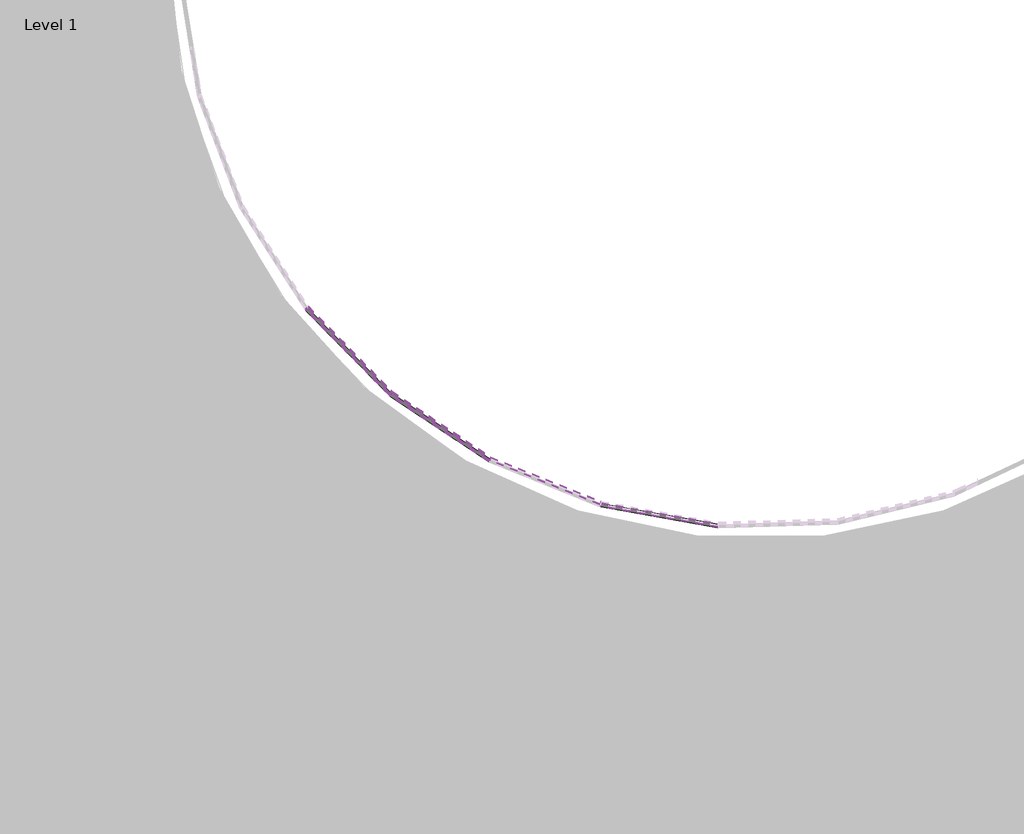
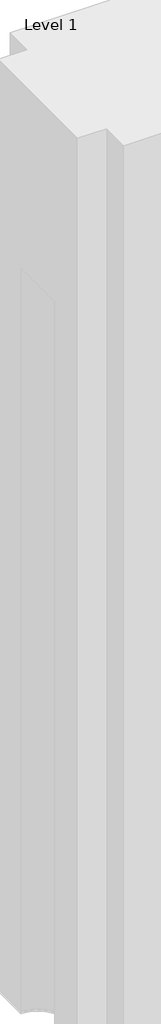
# One storey, part 17 of 20: 124 plates.
"""IFC4 building model written with IfcOpenShell, lengths in millimetres."""

from ifc_helpers import new_model, si_unit, origin, place, context, project, spatial, transform, mapped, element, save
from components import system_panel_glazed_d77d1ebf

model = new_model("IFC4")

# Units and contexts
model_context = context("Model", 3, world=origin())
ifc_project = project(units=[si_unit("LENGTHUNIT", "METRE", prefix="MILLI")], contexts=[model_context])

# Site, building, storey
site = spatial("IfcSite", under=ifc_project)
building = spatial("IfcBuilding", under=site)
storey = spatial("IfcBuildingStorey", under=building, Name="Level 1", Elevation=0.0)

# Plates
placement = place(None, origin())
system_panel_glazed_shape = system_panel_glazed_d77d1ebf(model_context)
element("IfcPlate", 1, ObjectType="System Panel : Glazed", at=placement, inside=storey, context=model_context, shape_type="MappedRepresentation", body=[
    mapped(system_panel_glazed_shape, transform((2743.6779183, 4695.2639957, 0.0), x_axis=(0.9845824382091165, -0.17492118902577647, 0.0), y_axis=(0.17492118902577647, 0.9845824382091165, 0.0), z_axis=(0.0, 0.0, 1.0))),
])
element("IfcPlate", 2, ObjectType="System Panel : Glazed", at=placement, inside=storey, context=model_context, shape_type="MappedRepresentation", body=[
    mapped(system_panel_glazed_shape, transform((2743.6779183, 4695.2639957, 3048.0), x_axis=(0.9845824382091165, -0.17492118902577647, 0.0), y_axis=(0.17492118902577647, 0.9845824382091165, 0.0), z_axis=(0.0, 0.0, 1.0))),
])
element("IfcPlate", 3, ObjectType="System Panel : Glazed", at=placement, inside=storey, context=model_context, shape_type="MappedRepresentation", body=[
    mapped(system_panel_glazed_shape, transform((2743.6779183, 4695.2639957, 6096.0), x_axis=(0.9845824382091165, -0.17492118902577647, 0.0), y_axis=(0.17492118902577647, 0.9845824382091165, 0.0), z_axis=(0.0, 0.0, 1.0))),
])
element("IfcPlate", 4, ObjectType="System Panel : Glazed", at=placement, inside=storey, context=model_context, shape_type="MappedRepresentation", body=[
    mapped(system_panel_glazed_shape, transform((2743.6779183, 4695.2639957, 9144.0), x_axis=(0.9845824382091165, -0.17492118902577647, 0.0), y_axis=(0.17492118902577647, 0.9845824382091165, 0.0), z_axis=(0.0, 0.0, 1.0))),
])
element("IfcPlate", 5, ObjectType="System Panel : Glazed", at=placement, inside=storey, context=model_context, shape_type="MappedRepresentation", body=[
    mapped(system_panel_glazed_shape, transform((2743.6779183, 4695.2639957, 12192.0), x_axis=(0.9845824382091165, -0.17492118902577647, 0.0), y_axis=(0.17492118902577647, 0.9845824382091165, 0.0), z_axis=(0.0, 0.0, 1.0))),
])
element("IfcPlate", 6, ObjectType="System Panel : Glazed", at=placement, inside=storey, context=model_context, shape_type="MappedRepresentation", body=[
    mapped(system_panel_glazed_shape, transform((2743.6779183, 4695.2639957, 15240.0), x_axis=(0.9845824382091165, -0.17492118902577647, 0.0), y_axis=(0.17492118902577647, 0.9845824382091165, 0.0), z_axis=(0.0, 0.0, 1.0))),
])
element("IfcPlate", 7, ObjectType="System Panel : Glazed", at=placement, inside=storey, context=model_context, shape_type="MappedRepresentation", body=[
    mapped(system_panel_glazed_shape, transform((2743.6779183, 4695.2639957, 18288.0), x_axis=(0.9845824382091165, -0.17492118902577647, 0.0), y_axis=(0.17492118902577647, 0.9845824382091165, 0.0), z_axis=(0.0, 0.0, 1.0))),
])
element("IfcPlate", 8, ObjectType="System Panel : Glazed", at=placement, inside=storey, context=model_context, shape_type="MappedRepresentation", body=[
    mapped(system_panel_glazed_shape, transform((2743.6779183, 4695.2639957, 21336.0), x_axis=(0.9845824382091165, -0.17492118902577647, 0.0), y_axis=(0.17492118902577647, 0.9845824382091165, 0.0), z_axis=(0.0, 0.0, 1.0))),
])
element("IfcPlate", 9, ObjectType="System Panel : Glazed", at=placement, inside=storey, context=model_context, shape_type="MappedRepresentation", body=[
    mapped(system_panel_glazed_shape, transform((2743.6779183, 4695.2639957, 24384.0), x_axis=(0.9845824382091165, -0.17492118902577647, 0.0), y_axis=(0.17492118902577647, 0.9845824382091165, 0.0), z_axis=(0.0, 0.0, 1.0))),
])
element("IfcPlate", 10, ObjectType="System Panel : Glazed", at=placement, inside=storey, context=model_context, shape_type="MappedRepresentation", body=[
    mapped(system_panel_glazed_shape, transform((2743.6779183, 4695.2639957, 27432.0), x_axis=(0.9845824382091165, -0.17492118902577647, 0.0), y_axis=(0.17492118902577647, 0.9845824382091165, 0.0), z_axis=(0.0, 0.0, 1.0))),
])
element("IfcPlate", 11, ObjectType="System Panel : Glazed", at=placement, inside=storey, context=model_context, shape_type="MappedRepresentation", body=[
    mapped(system_panel_glazed_shape, transform((2743.6779183, 4695.2639957, 30480.0), x_axis=(0.9845824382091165, -0.17492118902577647, 0.0), y_axis=(0.17492118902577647, 0.9845824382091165, 0.0), z_axis=(0.0, 0.0, 1.0))),
])
element("IfcPlate", 12, ObjectType="System Panel : Glazed", at=placement, inside=storey, context=model_context, shape_type="MappedRepresentation", body=[
    mapped(system_panel_glazed_shape, transform((2743.6779183, 4695.2639957, 33528.0), x_axis=(0.9845824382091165, -0.17492118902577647, 0.0), y_axis=(0.17492118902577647, 0.9845824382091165, 0.0), z_axis=(0.0, 0.0, 1.0))),
])
element("IfcPlate", 13, ObjectType="System Panel : Glazed", at=placement, inside=storey, context=model_context, shape_type="MappedRepresentation", body=[
    mapped(system_panel_glazed_shape, transform((2743.6779183, 4695.2639957, 36576.0), x_axis=(0.9845824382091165, -0.17492118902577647, 0.0), y_axis=(0.17492118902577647, 0.9845824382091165, 0.0), z_axis=(0.0, 0.0, 1.0))),
])
element("IfcPlate", 14, ObjectType="System Panel : Glazed", at=placement, inside=storey, context=model_context, shape_type="MappedRepresentation", body=[
    mapped(system_panel_glazed_shape, transform((2743.6779183, 4695.2639957, 39624.0), x_axis=(0.9845824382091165, -0.17492118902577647, 0.0), y_axis=(0.17492118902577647, 0.9845824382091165, 0.0), z_axis=(0.0, 0.0, 1.0))),
])
element("IfcPlate", 15, ObjectType="System Panel : Glazed", at=placement, inside=storey, context=model_context, shape_type="MappedRepresentation", body=[
    mapped(system_panel_glazed_shape, transform((2743.6779183, 4695.2639957, 42672.0), x_axis=(0.9845824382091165, -0.17492118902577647, 0.0), y_axis=(0.17492118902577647, 0.9845824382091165, 0.0), z_axis=(0.0, 0.0, 1.0))),
])
element("IfcPlate", 16, ObjectType="System Panel : Glazed", at=placement, inside=storey, context=model_context, shape_type="MappedRepresentation", body=[
    mapped(system_panel_glazed_shape, transform((2743.6779183, 4695.2639957, 45720.0), x_axis=(0.9845824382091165, -0.17492118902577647, 0.0), y_axis=(0.17492118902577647, 0.9845824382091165, 0.0), z_axis=(0.0, 0.0, 1.0))),
])
element("IfcPlate", 17, ObjectType="System Panel : Glazed", at=placement, inside=storey, context=model_context, shape_type="MappedRepresentation", body=[
    mapped(system_panel_glazed_shape, transform((2743.6779183, 4695.2639957, 48768.0), x_axis=(0.9845824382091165, -0.17492118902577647, 0.0), y_axis=(0.17492118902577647, 0.9845824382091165, 0.0), z_axis=(0.0, 0.0, 1.0))),
])
element("IfcPlate", 18, ObjectType="System Panel : Glazed", at=placement, inside=storey, context=model_context, shape_type="MappedRepresentation", body=[
    mapped(system_panel_glazed_shape, transform((2743.6779183, 4695.2639957, 51816.0), x_axis=(0.9845824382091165, -0.17492118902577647, 0.0), y_axis=(0.17492118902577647, 0.9845824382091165, 0.0), z_axis=(0.0, 0.0, 1.0))),
])
element("IfcPlate", 19, ObjectType="System Panel : Glazed", at=placement, inside=storey, context=model_context, shape_type="MappedRepresentation", body=[
    mapped(system_panel_glazed_shape, transform((2743.6779183, 4695.2639957, 54864.0), x_axis=(0.9845824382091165, -0.17492118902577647, 0.0), y_axis=(0.17492118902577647, 0.9845824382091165, 0.0), z_axis=(0.0, 0.0, 1.0))),
])
element("IfcPlate", 20, ObjectType="System Panel : Glazed", at=placement, inside=storey, context=model_context, shape_type="MappedRepresentation", body=[
    mapped(system_panel_glazed_shape, transform((2743.6779183, 4695.2639957, 57912.0), x_axis=(0.9845824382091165, -0.17492118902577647, 0.0), y_axis=(0.17492118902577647, 0.9845824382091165, 0.0), z_axis=(0.0, 0.0, 1.0))),
])
element("IfcPlate", 21, ObjectType="System Panel : Glazed", at=placement, inside=storey, context=model_context, shape_type="MappedRepresentation", body=[
    mapped(system_panel_glazed_shape, transform((2743.6779183, 4695.2639957, 60960.0), x_axis=(0.9845824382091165, -0.17492118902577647, 0.0), y_axis=(0.17492118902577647, 0.9845824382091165, 0.0), z_axis=(0.0, 0.0, 1.0))),
])
element("IfcPlate", 22, ObjectType="System Panel : Glazed", at=placement, inside=storey, context=model_context, shape_type="MappedRepresentation", body=[
    mapped(system_panel_glazed_shape, transform((2743.6779183, 4695.2639957, 64008.0), x_axis=(0.9845824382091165, -0.17492118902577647, 0.0), y_axis=(0.17492118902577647, 0.9845824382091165, 0.0), z_axis=(0.0, 0.0, 1.0))),
])
element("IfcPlate", 23, ObjectType="System Panel : Glazed", at=placement, inside=storey, context=model_context, shape_type="MappedRepresentation", body=[
    mapped(system_panel_glazed_shape, transform((2743.6779183, 4695.2639957, 67056.0), x_axis=(0.9845824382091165, -0.17492118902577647, 0.0), y_axis=(0.17492118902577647, 0.9845824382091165, 0.0), z_axis=(0.0, 0.0, 1.0))),
])
element("IfcPlate", 24, ObjectType="System Panel : Glazed", at=placement, inside=storey, context=model_context, shape_type="MappedRepresentation", body=[
    mapped(system_panel_glazed_shape, transform((2743.6779183, 4695.2639957, 70104.0), x_axis=(0.9845824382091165, -0.17492118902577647, 0.0), y_axis=(0.17492118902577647, 0.9845824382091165, 0.0), z_axis=(0.0, 0.0, 1.0))),
])
element("IfcPlate", 25, ObjectType="System Panel : Glazed", at=placement, inside=storey, context=model_context, shape_type="MappedRepresentation", body=[
    mapped(system_panel_glazed_shape, transform((2743.6779183, 4695.2639957, 73152.0), x_axis=(0.9845824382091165, -0.17492118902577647, 0.0), y_axis=(0.17492118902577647, 0.9845824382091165, 0.0), z_axis=(0.0, 0.0, 1.0))),
])
element("IfcPlate", 26, ObjectType="System Panel : Glazed", at=placement, inside=storey, context=model_context, shape_type="MappedRepresentation", body=[
    mapped(system_panel_glazed_shape, transform((2743.6779183, 4695.2639957, 76200.0), x_axis=(0.9845824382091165, -0.17492118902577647, 0.0), y_axis=(0.17492118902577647, 0.9845824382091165, 0.0), z_axis=(0.0, 0.0, 1.0))),
])
element("IfcPlate", 27, ObjectType="System Panel : Glazed", at=placement, inside=storey, context=model_context, shape_type="MappedRepresentation", body=[
    mapped(system_panel_glazed_shape, transform((2743.6779183, 4695.2639957, 79248.0), x_axis=(0.9845824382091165, -0.17492118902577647, 0.0), y_axis=(0.17492118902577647, 0.9845824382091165, 0.0), z_axis=(0.0, 0.0, 1.0))),
])
element("IfcPlate", 28, ObjectType="System Panel : Glazed", at=placement, inside=storey, context=model_context, shape_type="MappedRepresentation", body=[
    mapped(system_panel_glazed_shape, transform((1869.2399479, 4945.5684765, 70104.0), x_axis=(0.9280115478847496, -0.37255142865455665, 0.0), y_axis=(0.37255142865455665, 0.9280115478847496, 0.0), z_axis=(0.0, 0.0, 1.0))),
])
element("IfcPlate", 29, ObjectType="System Panel : Glazed", at=placement, inside=storey, context=model_context, shape_type="MappedRepresentation", body=[
    mapped(system_panel_glazed_shape, transform((1869.2399479, 4945.5684765, 73152.0), x_axis=(0.9280115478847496, -0.37255142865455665, 0.0), y_axis=(0.37255142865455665, 0.9280115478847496, 0.0), z_axis=(0.0, 0.0, 1.0))),
])
element("IfcPlate", 30, ObjectType="System Panel : Glazed", at=placement, inside=storey, context=model_context, shape_type="MappedRepresentation", body=[
    mapped(system_panel_glazed_shape, transform((1869.2399479, 4945.5684765, 76200.0), x_axis=(0.9280115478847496, -0.37255142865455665, 0.0), y_axis=(0.37255142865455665, 0.9280115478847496, 0.0), z_axis=(0.0, 0.0, 1.0))),
])
element("IfcPlate", 31, ObjectType="System Panel : Glazed", at=placement, inside=storey, context=model_context, shape_type="MappedRepresentation", body=[
    mapped(system_panel_glazed_shape, transform((1869.2399479, 4945.5684765, 79248.0), x_axis=(0.9280115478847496, -0.37255142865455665, 0.0), y_axis=(0.37255142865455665, 0.9280115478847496, 0.0), z_axis=(0.0, 0.0, 1.0))),
])
element("IfcPlate", 32, ObjectType="System Panel : Glazed", at=placement, inside=storey, context=model_context, shape_type="MappedRepresentation", body=[
    mapped(system_panel_glazed_shape, transform((1869.2399479, 4945.5684765, 82296.0), x_axis=(0.9280115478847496, -0.37255142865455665, 0.0), y_axis=(0.37255142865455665, 0.9280115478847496, 0.0), z_axis=(0.0, 0.0, 1.0))),
])
element("IfcPlate", 33, ObjectType="System Panel : Glazed", at=placement, inside=storey, context=model_context, shape_type="MappedRepresentation", body=[
    mapped(system_panel_glazed_shape, transform((1869.2399479, 4945.5684765, 85344.0), x_axis=(0.9280115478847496, -0.37255142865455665, 0.0), y_axis=(0.37255142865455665, 0.9280115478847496, 0.0), z_axis=(0.0, 0.0, 1.0))),
])
element("IfcPlate", 34, ObjectType="System Panel : Glazed", at=placement, inside=storey, context=model_context, shape_type="MappedRepresentation", body=[
    mapped(system_panel_glazed_shape, transform((1869.2399479, 4945.5684765, 88392.0), x_axis=(0.9280115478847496, -0.37255142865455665, 0.0), y_axis=(0.37255142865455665, 0.9280115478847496, 0.0), z_axis=(0.0, 0.0, 1.0))),
])
element("IfcPlate", 35, ObjectType="System Panel : Glazed", at=placement, inside=storey, context=model_context, shape_type="MappedRepresentation", body=[
    mapped(system_panel_glazed_shape, transform((1869.2399479, 4945.5684765, 91440.0), x_axis=(0.9280115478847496, -0.37255142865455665, 0.0), y_axis=(0.37255142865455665, 0.9280115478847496, 0.0), z_axis=(0.0, 0.0, 1.0))),
])
element("IfcPlate", 36, ObjectType="System Panel : Glazed", at=placement, inside=storey, context=model_context, shape_type="MappedRepresentation", body=[
    mapped(system_panel_glazed_shape, transform((1869.2399479, 4945.5684765, 94488.0), x_axis=(0.9280115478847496, -0.37255142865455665, 0.0), y_axis=(0.37255142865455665, 0.9280115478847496, 0.0), z_axis=(0.0, 0.0, 1.0))),
])
element("IfcPlate", 37, ObjectType="System Panel : Glazed", at=placement, inside=storey, context=model_context, shape_type="MappedRepresentation", body=[
    mapped(system_panel_glazed_shape, transform((1869.2399479, 4945.5684765, 97536.0), x_axis=(0.9280115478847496, -0.37255142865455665, 0.0), y_axis=(0.37255142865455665, 0.9280115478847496, 0.0), z_axis=(0.0, 0.0, 1.0))),
])
element("IfcPlate", 38, ObjectType="System Panel : Glazed", at=placement, inside=storey, context=model_context, shape_type="MappedRepresentation", body=[
    mapped(system_panel_glazed_shape, transform((1869.2399479, 4945.5684765, 100584.0), x_axis=(0.9280115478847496, -0.37255142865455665, 0.0), y_axis=(0.37255142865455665, 0.9280115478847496, 0.0), z_axis=(0.0, 0.0, 1.0))),
])
element("IfcPlate", 39, ObjectType="System Panel : Glazed", at=placement, inside=storey, context=model_context, shape_type="MappedRepresentation", body=[
    mapped(system_panel_glazed_shape, transform((1064.4599049, 5369.3882255, 0.0), x_axis=(0.8322247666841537, -0.5544383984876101, 0.0), y_axis=(0.5544383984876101, 0.8322247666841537, 0.0), z_axis=(0.0, 0.0, 1.0))),
])
element("IfcPlate", 40, ObjectType="System Panel : Glazed", at=placement, inside=storey, context=model_context, shape_type="MappedRepresentation", body=[
    mapped(system_panel_glazed_shape, transform((1064.4599049, 5369.3882255, 3048.0), x_axis=(0.8322247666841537, -0.5544383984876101, 0.0), y_axis=(0.5544383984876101, 0.8322247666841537, 0.0), z_axis=(0.0, 0.0, 1.0))),
])
element("IfcPlate", 41, ObjectType="System Panel : Glazed", at=placement, inside=storey, context=model_context, shape_type="MappedRepresentation", body=[
    mapped(system_panel_glazed_shape, transform((1064.4599049, 5369.3882255, 6096.0), x_axis=(0.8322247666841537, -0.5544383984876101, 0.0), y_axis=(0.5544383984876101, 0.8322247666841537, 0.0), z_axis=(0.0, 0.0, 1.0))),
])
element("IfcPlate", 42, ObjectType="System Panel : Glazed", at=placement, inside=storey, context=model_context, shape_type="MappedRepresentation", body=[
    mapped(system_panel_glazed_shape, transform((1064.4599049, 5369.3882255, 9144.0), x_axis=(0.8322247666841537, -0.5544383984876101, 0.0), y_axis=(0.5544383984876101, 0.8322247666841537, 0.0), z_axis=(0.0, 0.0, 1.0))),
])
element("IfcPlate", 43, ObjectType="System Panel : Glazed", at=placement, inside=storey, context=model_context, shape_type="MappedRepresentation", body=[
    mapped(system_panel_glazed_shape, transform((1064.4599049, 5369.3882255, 12192.0), x_axis=(0.8322247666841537, -0.5544383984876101, 0.0), y_axis=(0.5544383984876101, 0.8322247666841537, 0.0), z_axis=(0.0, 0.0, 1.0))),
])
element("IfcPlate", 44, ObjectType="System Panel : Glazed", at=placement, inside=storey, context=model_context, shape_type="MappedRepresentation", body=[
    mapped(system_panel_glazed_shape, transform((1064.4599049, 5369.3882255, 15240.0), x_axis=(0.8322247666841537, -0.5544383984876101, 0.0), y_axis=(0.5544383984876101, 0.8322247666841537, 0.0), z_axis=(0.0, 0.0, 1.0))),
])
element("IfcPlate", 45, ObjectType="System Panel : Glazed", at=placement, inside=storey, context=model_context, shape_type="MappedRepresentation", body=[
    mapped(system_panel_glazed_shape, transform((1064.4599049, 5369.3882255, 18288.0), x_axis=(0.8322247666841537, -0.5544383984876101, 0.0), y_axis=(0.5544383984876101, 0.8322247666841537, 0.0), z_axis=(0.0, 0.0, 1.0))),
])
element("IfcPlate", 46, ObjectType="System Panel : Glazed", at=placement, inside=storey, context=model_context, shape_type="MappedRepresentation", body=[
    mapped(system_panel_glazed_shape, transform((1064.4599049, 5369.3882255, 21336.0), x_axis=(0.8322247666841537, -0.5544383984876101, 0.0), y_axis=(0.5544383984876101, 0.8322247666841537, 0.0), z_axis=(0.0, 0.0, 1.0))),
])
element("IfcPlate", 47, ObjectType="System Panel : Glazed", at=placement, inside=storey, context=model_context, shape_type="MappedRepresentation", body=[
    mapped(system_panel_glazed_shape, transform((1064.4599049, 5369.3882255, 24384.0), x_axis=(0.8322247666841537, -0.5544383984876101, 0.0), y_axis=(0.5544383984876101, 0.8322247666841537, 0.0), z_axis=(0.0, 0.0, 1.0))),
])
element("IfcPlate", 48, ObjectType="System Panel : Glazed", at=placement, inside=storey, context=model_context, shape_type="MappedRepresentation", body=[
    mapped(system_panel_glazed_shape, transform((1064.4599049, 5369.3882255, 27432.0), x_axis=(0.8322247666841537, -0.5544383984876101, 0.0), y_axis=(0.5544383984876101, 0.8322247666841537, 0.0), z_axis=(0.0, 0.0, 1.0))),
])
element("IfcPlate", 49, ObjectType="System Panel : Glazed", at=placement, inside=storey, context=model_context, shape_type="MappedRepresentation", body=[
    mapped(system_panel_glazed_shape, transform((1064.4599049, 5369.3882255, 30480.0), x_axis=(0.8322247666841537, -0.5544383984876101, 0.0), y_axis=(0.5544383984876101, 0.8322247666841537, 0.0), z_axis=(0.0, 0.0, 1.0))),
])
element("IfcPlate", 50, ObjectType="System Panel : Glazed", at=placement, inside=storey, context=model_context, shape_type="MappedRepresentation", body=[
    mapped(system_panel_glazed_shape, transform((1064.4599049, 5369.3882255, 33528.0), x_axis=(0.8322247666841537, -0.5544383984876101, 0.0), y_axis=(0.5544383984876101, 0.8322247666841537, 0.0), z_axis=(0.0, 0.0, 1.0))),
])
element("IfcPlate", 51, ObjectType="System Panel : Glazed", at=placement, inside=storey, context=model_context, shape_type="MappedRepresentation", body=[
    mapped(system_panel_glazed_shape, transform((1064.4599049, 5369.3882255, 36576.0), x_axis=(0.8322247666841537, -0.5544383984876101, 0.0), y_axis=(0.5544383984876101, 0.8322247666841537, 0.0), z_axis=(0.0, 0.0, 1.0))),
])
element("IfcPlate", 52, ObjectType="System Panel : Glazed", at=placement, inside=storey, context=model_context, shape_type="MappedRepresentation", body=[
    mapped(system_panel_glazed_shape, transform((1064.4599049, 5369.3882255, 39624.0), x_axis=(0.8322247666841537, -0.5544383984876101, 0.0), y_axis=(0.5544383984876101, 0.8322247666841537, 0.0), z_axis=(0.0, 0.0, 1.0))),
])
element("IfcPlate", 53, ObjectType="System Panel : Glazed", at=placement, inside=storey, context=model_context, shape_type="MappedRepresentation", body=[
    mapped(system_panel_glazed_shape, transform((1064.4599049, 5369.3882255, 42672.0), x_axis=(0.8322247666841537, -0.5544383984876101, 0.0), y_axis=(0.5544383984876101, 0.8322247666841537, 0.0), z_axis=(0.0, 0.0, 1.0))),
])
element("IfcPlate", 54, ObjectType="System Panel : Glazed", at=placement, inside=storey, context=model_context, shape_type="MappedRepresentation", body=[
    mapped(system_panel_glazed_shape, transform((1064.4599049, 5369.3882255, 45720.0), x_axis=(0.8322247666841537, -0.5544383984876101, 0.0), y_axis=(0.5544383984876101, 0.8322247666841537, 0.0), z_axis=(0.0, 0.0, 1.0))),
])
element("IfcPlate", 55, ObjectType="System Panel : Glazed", at=placement, inside=storey, context=model_context, shape_type="MappedRepresentation", body=[
    mapped(system_panel_glazed_shape, transform((1064.4599049, 5369.3882255, 48768.0), x_axis=(0.8322247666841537, -0.5544383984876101, 0.0), y_axis=(0.5544383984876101, 0.8322247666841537, 0.0), z_axis=(0.0, 0.0, 1.0))),
])
element("IfcPlate", 56, ObjectType="System Panel : Glazed", at=placement, inside=storey, context=model_context, shape_type="MappedRepresentation", body=[
    mapped(system_panel_glazed_shape, transform((1064.4599049, 5369.3882255, 51816.0), x_axis=(0.8322247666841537, -0.5544383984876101, 0.0), y_axis=(0.5544383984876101, 0.8322247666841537, 0.0), z_axis=(0.0, 0.0, 1.0))),
])
element("IfcPlate", 57, ObjectType="System Panel : Glazed", at=placement, inside=storey, context=model_context, shape_type="MappedRepresentation", body=[
    mapped(system_panel_glazed_shape, transform((1064.4599049, 5369.3882255, 54864.0), x_axis=(0.8322247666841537, -0.5544383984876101, 0.0), y_axis=(0.5544383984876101, 0.8322247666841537, 0.0), z_axis=(0.0, 0.0, 1.0))),
])
element("IfcPlate", 58, ObjectType="System Panel : Glazed", at=placement, inside=storey, context=model_context, shape_type="MappedRepresentation", body=[
    mapped(system_panel_glazed_shape, transform((1064.4599049, 5369.3882255, 57912.0), x_axis=(0.8322247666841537, -0.5544383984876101, 0.0), y_axis=(0.5544383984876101, 0.8322247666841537, 0.0), z_axis=(0.0, 0.0, 1.0))),
])
element("IfcPlate", 59, ObjectType="System Panel : Glazed", at=placement, inside=storey, context=model_context, shape_type="MappedRepresentation", body=[
    mapped(system_panel_glazed_shape, transform((1064.4599049, 5369.3882255, 60960.0), x_axis=(0.8322247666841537, -0.5544383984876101, 0.0), y_axis=(0.5544383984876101, 0.8322247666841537, 0.0), z_axis=(0.0, 0.0, 1.0))),
])
element("IfcPlate", 60, ObjectType="System Panel : Glazed", at=placement, inside=storey, context=model_context, shape_type="MappedRepresentation", body=[
    mapped(system_panel_glazed_shape, transform((1064.4599049, 5369.3882255, 64008.0), x_axis=(0.8322247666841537, -0.5544383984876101, 0.0), y_axis=(0.5544383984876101, 0.8322247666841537, 0.0), z_axis=(0.0, 0.0, 1.0))),
])
element("IfcPlate", 61, ObjectType="System Panel : Glazed", at=placement, inside=storey, context=model_context, shape_type="MappedRepresentation", body=[
    mapped(system_panel_glazed_shape, transform((1064.4599049, 5369.3882255, 67056.0), x_axis=(0.8322247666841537, -0.5544383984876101, 0.0), y_axis=(0.5544383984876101, 0.8322247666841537, 0.0), z_axis=(0.0, 0.0, 1.0))),
])
element("IfcPlate", 62, ObjectType="System Panel : Glazed", at=placement, inside=storey, context=model_context, shape_type="MappedRepresentation", body=[
    mapped(system_panel_glazed_shape, transform((1064.4599049, 5369.3882255, 70104.0), x_axis=(0.8322247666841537, -0.5544383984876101, 0.0), y_axis=(0.5544383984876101, 0.8322247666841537, 0.0), z_axis=(0.0, 0.0, 1.0))),
])
element("IfcPlate", 63, ObjectType="System Panel : Glazed", at=placement, inside=storey, context=model_context, shape_type="MappedRepresentation", body=[
    mapped(system_panel_glazed_shape, transform((1064.4599049, 5369.3882255, 73152.0), x_axis=(0.8322247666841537, -0.5544383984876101, 0.0), y_axis=(0.5544383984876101, 0.8322247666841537, 0.0), z_axis=(0.0, 0.0, 1.0))),
])
element("IfcPlate", 64, ObjectType="System Panel : Glazed", at=placement, inside=storey, context=model_context, shape_type="MappedRepresentation", body=[
    mapped(system_panel_glazed_shape, transform((1064.4599049, 5369.3882255, 76200.0), x_axis=(0.8322247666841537, -0.5544383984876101, 0.0), y_axis=(0.5544383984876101, 0.8322247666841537, 0.0), z_axis=(0.0, 0.0, 1.0))),
])
element("IfcPlate", 65, ObjectType="System Panel : Glazed", at=placement, inside=storey, context=model_context, shape_type="MappedRepresentation", body=[
    mapped(system_panel_glazed_shape, transform((1064.4599049, 5369.3882255, 79248.0), x_axis=(0.8322247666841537, -0.5544383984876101, 0.0), y_axis=(0.5544383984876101, 0.8322247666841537, 0.0), z_axis=(0.0, 0.0, 1.0))),
])
element("IfcPlate", 66, ObjectType="System Panel : Glazed", at=placement, inside=storey, context=model_context, shape_type="MappedRepresentation", body=[
    mapped(system_panel_glazed_shape, transform((1064.4599049, 5369.3882255, 82296.0), x_axis=(0.8322247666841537, -0.5544383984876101, 0.0), y_axis=(0.5544383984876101, 0.8322247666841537, 0.0), z_axis=(0.0, 0.0, 1.0))),
])
element("IfcPlate", 67, ObjectType="System Panel : Glazed", at=placement, inside=storey, context=model_context, shape_type="MappedRepresentation", body=[
    mapped(system_panel_glazed_shape, transform((1064.4599049, 5369.3882255, 85344.0), x_axis=(0.8322247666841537, -0.5544383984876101, 0.0), y_axis=(0.5544383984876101, 0.8322247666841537, 0.0), z_axis=(0.0, 0.0, 1.0))),
])
element("IfcPlate", 68, ObjectType="System Panel : Glazed", at=placement, inside=storey, context=model_context, shape_type="MappedRepresentation", body=[
    mapped(system_panel_glazed_shape, transform((1064.4599049, 5369.3882255, 88392.0), x_axis=(0.8322247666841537, -0.5544383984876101, 0.0), y_axis=(0.5544383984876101, 0.8322247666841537, 0.0), z_axis=(0.0, 0.0, 1.0))),
])
element("IfcPlate", 69, ObjectType="System Panel : Glazed", at=placement, inside=storey, context=model_context, shape_type="MappedRepresentation", body=[
    mapped(system_panel_glazed_shape, transform((1064.4599049, 5369.3882255, 91440.0), x_axis=(0.8322247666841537, -0.5544383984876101, 0.0), y_axis=(0.5544383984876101, 0.8322247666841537, 0.0), z_axis=(0.0, 0.0, 1.0))),
])
element("IfcPlate", 70, ObjectType="System Panel : Glazed", at=placement, inside=storey, context=model_context, shape_type="MappedRepresentation", body=[
    mapped(system_panel_glazed_shape, transform((1064.4599049, 5369.3882255, 94488.0), x_axis=(0.8322247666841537, -0.5544383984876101, 0.0), y_axis=(0.5544383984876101, 0.8322247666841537, 0.0), z_axis=(0.0, 0.0, 1.0))),
])
element("IfcPlate", 71, ObjectType="System Panel : Glazed", at=placement, inside=storey, context=model_context, shape_type="MappedRepresentation", body=[
    mapped(system_panel_glazed_shape, transform((1064.4599049, 5369.3882255, 97536.0), x_axis=(0.8322247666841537, -0.5544383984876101, 0.0), y_axis=(0.5544383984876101, 0.8322247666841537, 0.0), z_axis=(0.0, 0.0, 1.0))),
])
element("IfcPlate", 72, ObjectType="System Panel : Glazed", at=placement, inside=storey, context=model_context, shape_type="MappedRepresentation", body=[
    mapped(system_panel_glazed_shape, transform((1064.4599049, 5369.3882255, 100584.0), x_axis=(0.8322247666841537, -0.5544383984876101, 0.0), y_axis=(0.5544383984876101, 0.8322247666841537, 0.0), z_axis=(0.0, 0.0, 1.0))),
])
element("IfcPlate", 73, ObjectType="System Panel : Glazed", at=placement, inside=storey, context=model_context, shape_type="MappedRepresentation", body=[
    mapped(system_panel_glazed_shape, transform((363.346166, 5948.8134773, 0.0), x_axis=(0.7012698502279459, -0.712895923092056, 0.0), y_axis=(0.712895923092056, 0.7012698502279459, 0.0), z_axis=(0.0, 0.0, 1.0))),
])
element("IfcPlate", 74, ObjectType="System Panel : Glazed", at=placement, inside=storey, context=model_context, shape_type="MappedRepresentation", body=[
    mapped(system_panel_glazed_shape, transform((363.346166, 5948.8134773, 3048.0), x_axis=(0.7012698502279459, -0.712895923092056, 0.0), y_axis=(0.712895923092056, 0.7012698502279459, 0.0), z_axis=(0.0, 0.0, 1.0))),
])
element("IfcPlate", 75, ObjectType="System Panel : Glazed", at=placement, inside=storey, context=model_context, shape_type="MappedRepresentation", body=[
    mapped(system_panel_glazed_shape, transform((363.346166, 5948.8134773, 6096.0), x_axis=(0.7012698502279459, -0.712895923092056, 0.0), y_axis=(0.712895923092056, 0.7012698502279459, 0.0), z_axis=(0.0, 0.0, 1.0))),
])
element("IfcPlate", 76, ObjectType="System Panel : Glazed", at=placement, inside=storey, context=model_context, shape_type="MappedRepresentation", body=[
    mapped(system_panel_glazed_shape, transform((363.346166, 5948.8134773, 9144.0), x_axis=(0.7012698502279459, -0.712895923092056, 0.0), y_axis=(0.712895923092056, 0.7012698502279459, 0.0), z_axis=(0.0, 0.0, 1.0))),
])
element("IfcPlate", 77, ObjectType="System Panel : Glazed", at=placement, inside=storey, context=model_context, shape_type="MappedRepresentation", body=[
    mapped(system_panel_glazed_shape, transform((363.346166, 5948.8134773, 12192.0), x_axis=(0.7012698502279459, -0.712895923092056, 0.0), y_axis=(0.712895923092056, 0.7012698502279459, 0.0), z_axis=(0.0, 0.0, 1.0))),
])
element("IfcPlate", 78, ObjectType="System Panel : Glazed", at=placement, inside=storey, context=model_context, shape_type="MappedRepresentation", body=[
    mapped(system_panel_glazed_shape, transform((363.346166, 5948.8134773, 15240.0), x_axis=(0.7012698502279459, -0.712895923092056, 0.0), y_axis=(0.712895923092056, 0.7012698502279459, 0.0), z_axis=(0.0, 0.0, 1.0))),
])
element("IfcPlate", 79, ObjectType="System Panel : Glazed", at=placement, inside=storey, context=model_context, shape_type="MappedRepresentation", body=[
    mapped(system_panel_glazed_shape, transform((363.346166, 5948.8134773, 18288.0), x_axis=(0.7012698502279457, -0.7128959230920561, 0.0), y_axis=(0.7128959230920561, 0.7012698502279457, 0.0), z_axis=(0.0, 0.0, 1.0))),
])
element("IfcPlate", 80, ObjectType="System Panel : Glazed", at=placement, inside=storey, context=model_context, shape_type="MappedRepresentation", body=[
    mapped(system_panel_glazed_shape, transform((363.346166, 5948.8134773, 21336.0), x_axis=(0.7012698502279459, -0.712895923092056, 0.0), y_axis=(0.712895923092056, 0.7012698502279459, 0.0), z_axis=(0.0, 0.0, 1.0))),
])
element("IfcPlate", 81, ObjectType="System Panel : Glazed", at=placement, inside=storey, context=model_context, shape_type="MappedRepresentation", body=[
    mapped(system_panel_glazed_shape, transform((363.346166, 5948.8134773, 24384.0), x_axis=(0.7012698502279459, -0.712895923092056, 0.0), y_axis=(0.712895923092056, 0.7012698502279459, 0.0), z_axis=(0.0, 0.0, 1.0))),
])
element("IfcPlate", 82, ObjectType="System Panel : Glazed", at=placement, inside=storey, context=model_context, shape_type="MappedRepresentation", body=[
    mapped(system_panel_glazed_shape, transform((363.346166, 5948.8134773, 27432.0), x_axis=(0.7012698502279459, -0.712895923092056, 0.0), y_axis=(0.712895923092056, 0.7012698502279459, 0.0), z_axis=(0.0, 0.0, 1.0))),
])
element("IfcPlate", 83, ObjectType="System Panel : Glazed", at=placement, inside=storey, context=model_context, shape_type="MappedRepresentation", body=[
    mapped(system_panel_glazed_shape, transform((363.346166, 5948.8134773, 30480.0), x_axis=(0.7012698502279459, -0.712895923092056, 0.0), y_axis=(0.712895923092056, 0.7012698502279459, 0.0), z_axis=(0.0, 0.0, 1.0))),
])
element("IfcPlate", 84, ObjectType="System Panel : Glazed", at=placement, inside=storey, context=model_context, shape_type="MappedRepresentation", body=[
    mapped(system_panel_glazed_shape, transform((363.346166, 5948.8134773, 33528.0), x_axis=(0.7012698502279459, -0.712895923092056, 0.0), y_axis=(0.712895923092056, 0.7012698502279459, 0.0), z_axis=(0.0, 0.0, 1.0))),
])
element("IfcPlate", 85, ObjectType="System Panel : Glazed", at=placement, inside=storey, context=model_context, shape_type="MappedRepresentation", body=[
    mapped(system_panel_glazed_shape, transform((363.346166, 5948.8134773, 36576.0), x_axis=(0.7012698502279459, -0.712895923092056, 0.0), y_axis=(0.712895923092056, 0.7012698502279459, 0.0), z_axis=(0.0, 0.0, 1.0))),
])
element("IfcPlate", 86, ObjectType="System Panel : Glazed", at=placement, inside=storey, context=model_context, shape_type="MappedRepresentation", body=[
    mapped(system_panel_glazed_shape, transform((363.346166, 5948.8134773, 39624.0), x_axis=(0.7012698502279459, -0.712895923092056, 0.0), y_axis=(0.712895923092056, 0.7012698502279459, 0.0), z_axis=(0.0, 0.0, 1.0))),
])
element("IfcPlate", 87, ObjectType="System Panel : Glazed", at=placement, inside=storey, context=model_context, shape_type="MappedRepresentation", body=[
    mapped(system_panel_glazed_shape, transform((363.346166, 5948.8134773, 42672.0), x_axis=(0.7012698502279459, -0.712895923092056, 0.0), y_axis=(0.712895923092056, 0.7012698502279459, 0.0), z_axis=(0.0, 0.0, 1.0))),
])
element("IfcPlate", 88, ObjectType="System Panel : Glazed", at=placement, inside=storey, context=model_context, shape_type="MappedRepresentation", body=[
    mapped(system_panel_glazed_shape, transform((363.346166, 5948.8134773, 45720.0), x_axis=(0.7012698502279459, -0.712895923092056, 0.0), y_axis=(0.712895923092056, 0.7012698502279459, 0.0), z_axis=(0.0, 0.0, 1.0))),
])
element("IfcPlate", 89, ObjectType="System Panel : Glazed", at=placement, inside=storey, context=model_context, shape_type="MappedRepresentation", body=[
    mapped(system_panel_glazed_shape, transform((363.346166, 5948.8134773, 48768.0), x_axis=(0.7012698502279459, -0.712895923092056, 0.0), y_axis=(0.712895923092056, 0.7012698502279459, 0.0), z_axis=(0.0, 0.0, 1.0))),
])
element("IfcPlate", 90, ObjectType="System Panel : Glazed", at=placement, inside=storey, context=model_context, shape_type="MappedRepresentation", body=[
    mapped(system_panel_glazed_shape, transform((363.346166, 5948.8134773, 51816.0), x_axis=(0.7012698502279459, -0.712895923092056, 0.0), y_axis=(0.712895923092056, 0.7012698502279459, 0.0), z_axis=(0.0, 0.0, 1.0))),
])
element("IfcPlate", 91, ObjectType="System Panel : Glazed", at=placement, inside=storey, context=model_context, shape_type="MappedRepresentation", body=[
    mapped(system_panel_glazed_shape, transform((363.346166, 5948.8134773, 54864.0), x_axis=(0.7012698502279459, -0.712895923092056, 0.0), y_axis=(0.712895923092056, 0.7012698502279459, 0.0), z_axis=(0.0, 0.0, 1.0))),
])
element("IfcPlate", 92, ObjectType="System Panel : Glazed", at=placement, inside=storey, context=model_context, shape_type="MappedRepresentation", body=[
    mapped(system_panel_glazed_shape, transform((363.346166, 5948.8134773, 57912.0), x_axis=(0.7012698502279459, -0.712895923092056, 0.0), y_axis=(0.712895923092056, 0.7012698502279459, 0.0), z_axis=(0.0, 0.0, 1.0))),
])
element("IfcPlate", 93, ObjectType="System Panel : Glazed", at=placement, inside=storey, context=model_context, shape_type="MappedRepresentation", body=[
    mapped(system_panel_glazed_shape, transform((363.346166, 5948.8134773, 60960.0), x_axis=(0.7012698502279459, -0.712895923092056, 0.0), y_axis=(0.712895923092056, 0.7012698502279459, 0.0), z_axis=(0.0, 0.0, 1.0))),
])
element("IfcPlate", 94, ObjectType="System Panel : Glazed", at=placement, inside=storey, context=model_context, shape_type="MappedRepresentation", body=[
    mapped(system_panel_glazed_shape, transform((363.346166, 5948.8134773, 64008.0), x_axis=(0.7012698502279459, -0.712895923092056, 0.0), y_axis=(0.712895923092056, 0.7012698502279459, 0.0), z_axis=(0.0, 0.0, 1.0))),
])
element("IfcPlate", 95, ObjectType="System Panel : Glazed", at=placement, inside=storey, context=model_context, shape_type="MappedRepresentation", body=[
    mapped(system_panel_glazed_shape, transform((363.346166, 5948.8134773, 67056.0), x_axis=(0.7012698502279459, -0.712895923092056, 0.0), y_axis=(0.712895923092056, 0.7012698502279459, 0.0), z_axis=(0.0, 0.0, 1.0))),
])
element("IfcPlate", 96, ObjectType="System Panel : Glazed", at=placement, inside=storey, context=model_context, shape_type="MappedRepresentation", body=[
    mapped(system_panel_glazed_shape, transform((363.346166, 5948.8134773, 70104.0), x_axis=(0.7012698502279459, -0.712895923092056, 0.0), y_axis=(0.712895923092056, 0.7012698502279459, 0.0), z_axis=(0.0, 0.0, 1.0))),
])
element("IfcPlate", 97, ObjectType="System Panel : Glazed", at=placement, inside=storey, context=model_context, shape_type="MappedRepresentation", body=[
    mapped(system_panel_glazed_shape, transform((363.346166, 5948.8134773, 73152.0), x_axis=(0.7012698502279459, -0.712895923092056, 0.0), y_axis=(0.712895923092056, 0.7012698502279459, 0.0), z_axis=(0.0, 0.0, 1.0))),
])
element("IfcPlate", 98, ObjectType="System Panel : Glazed", at=placement, inside=storey, context=model_context, shape_type="MappedRepresentation", body=[
    mapped(system_panel_glazed_shape, transform((363.346166, 5948.8134773, 76200.0), x_axis=(0.7012698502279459, -0.712895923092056, 0.0), y_axis=(0.712895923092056, 0.7012698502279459, 0.0), z_axis=(0.0, 0.0, 1.0))),
])
element("IfcPlate", 99, ObjectType="System Panel : Glazed", at=placement, inside=storey, context=model_context, shape_type="MappedRepresentation", body=[
    mapped(system_panel_glazed_shape, transform((363.346166, 5948.8134773, 79248.0), x_axis=(0.7012698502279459, -0.712895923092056, 0.0), y_axis=(0.712895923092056, 0.7012698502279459, 0.0), z_axis=(0.0, 0.0, 1.0))),
])
element("IfcPlate", 100, ObjectType="System Panel : Glazed", at=placement, inside=storey, context=model_context, shape_type="MappedRepresentation", body=[
    mapped(system_panel_glazed_shape, transform((363.346166, 5948.8134773, 82296.0), x_axis=(0.7012698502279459, -0.712895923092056, 0.0), y_axis=(0.712895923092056, 0.7012698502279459, 0.0), z_axis=(0.0, 0.0, 1.0))),
])
element("IfcPlate", 101, ObjectType="System Panel : Glazed", at=placement, inside=storey, context=model_context, shape_type="MappedRepresentation", body=[
    mapped(system_panel_glazed_shape, transform((363.346166, 5948.8134773, 85344.0), x_axis=(0.7012698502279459, -0.712895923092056, 0.0), y_axis=(0.712895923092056, 0.7012698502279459, 0.0), z_axis=(0.0, 0.0, 1.0))),
])
element("IfcPlate", 102, ObjectType="System Panel : Glazed", at=placement, inside=storey, context=model_context, shape_type="MappedRepresentation", body=[
    mapped(system_panel_glazed_shape, transform((363.346166, 5948.8134773, 88392.0), x_axis=(0.7012698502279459, -0.712895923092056, 0.0), y_axis=(0.712895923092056, 0.7012698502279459, 0.0), z_axis=(0.0, 0.0, 1.0))),
])
element("IfcPlate", 103, ObjectType="System Panel : Glazed", at=placement, inside=storey, context=model_context, shape_type="MappedRepresentation", body=[
    mapped(system_panel_glazed_shape, transform((363.346166, 5948.8134773, 91440.0), x_axis=(0.7012698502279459, -0.712895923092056, 0.0), y_axis=(0.712895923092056, 0.7012698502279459, 0.0), z_axis=(0.0, 0.0, 1.0))),
])
element("IfcPlate", 104, ObjectType="System Panel : Glazed", at=placement, inside=storey, context=model_context, shape_type="MappedRepresentation", body=[
    mapped(system_panel_glazed_shape, transform((363.346166, 5948.8134773, 94488.0), x_axis=(0.7012698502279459, -0.712895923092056, 0.0), y_axis=(0.712895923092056, 0.7012698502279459, 0.0), z_axis=(0.0, 0.0, 1.0))),
])
element("IfcPlate", 105, ObjectType="System Panel : Glazed", at=placement, inside=storey, context=model_context, shape_type="MappedRepresentation", body=[
    mapped(system_panel_glazed_shape, transform((363.346166, 5948.8134773, 97536.0), x_axis=(0.7012698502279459, -0.712895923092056, 0.0), y_axis=(0.712895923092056, 0.7012698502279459, 0.0), z_axis=(0.0, 0.0, 1.0))),
])
element("IfcPlate", 106, ObjectType="System Panel : Glazed", at=placement, inside=storey, context=model_context, shape_type="MappedRepresentation", body=[
    mapped(system_panel_glazed_shape, transform((363.346166, 5948.8134773, 100584.0), x_axis=(0.7012698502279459, -0.712895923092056, 0.0), y_axis=(0.712895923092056, 0.7012698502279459, 0.0), z_axis=(0.0, 0.0, 1.0))),
])
element("IfcPlate", 107, ObjectType="System Panel : Glazed", at=placement, inside=storey, context=model_context, shape_type="MappedRepresentation", body=[
    mapped(system_panel_glazed_shape, transform((1869.2399479, 4945.5684765, 103632.0), x_axis=(0.9280115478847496, -0.37255142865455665, 0.0), y_axis=(0.37255142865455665, 0.9280115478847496, 0.0), z_axis=(0.0, 0.0, 1.0))),
])
element("IfcPlate", 108, ObjectType="System Panel : Glazed", at=placement, inside=storey, context=model_context, shape_type="MappedRepresentation", body=[
    mapped(system_panel_glazed_shape, transform((1064.4599049, 5369.3882255, 103632.0), x_axis=(0.8322247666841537, -0.5544383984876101, 0.0), y_axis=(0.5544383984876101, 0.8322247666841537, 0.0), z_axis=(0.0, 0.0, 1.0))),
])
element("IfcPlate", 109, ObjectType="System Panel : Glazed", at=placement, inside=storey, context=model_context, shape_type="MappedRepresentation", body=[
    mapped(system_panel_glazed_shape, transform((363.346166, 5948.8134773, 103632.0), x_axis=(0.7012698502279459, -0.712895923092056, 0.0), y_axis=(0.712895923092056, 0.7012698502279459, 0.0), z_axis=(0.0, 0.0, 1.0))),
])
element("IfcPlate", 110, ObjectType="System Panel : Glazed", at=placement, inside=storey, context=model_context, shape_type="MappedRepresentation", body=[
    mapped(system_panel_glazed_shape, transform((1869.2399479, 4945.5684765, 106680.0), x_axis=(0.9280115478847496, -0.37255142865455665, 0.0), y_axis=(0.37255142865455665, 0.9280115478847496, 0.0), z_axis=(0.0, 0.0, 1.0))),
])
element("IfcPlate", 111, ObjectType="System Panel : Glazed", at=placement, inside=storey, context=model_context, shape_type="MappedRepresentation", body=[
    mapped(system_panel_glazed_shape, transform((1064.4599049, 5369.3882255, 106680.0), x_axis=(0.8322247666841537, -0.5544383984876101, 0.0), y_axis=(0.5544383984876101, 0.8322247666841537, 0.0), z_axis=(0.0, 0.0, 1.0))),
])
element("IfcPlate", 112, ObjectType="System Panel : Glazed", at=placement, inside=storey, context=model_context, shape_type="MappedRepresentation", body=[
    mapped(system_panel_glazed_shape, transform((363.346166, 5948.8134773, 106680.0), x_axis=(0.7012698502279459, -0.712895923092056, 0.0), y_axis=(0.712895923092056, 0.7012698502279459, 0.0), z_axis=(0.0, 0.0, 1.0))),
])
element("IfcPlate", 113, ObjectType="System Panel : Glazed", at=placement, inside=storey, context=model_context, shape_type="MappedRepresentation", body=[
    mapped(system_panel_glazed_shape, transform((1869.2399479, 4945.5684765, 109728.0), x_axis=(0.9280115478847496, -0.37255142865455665, 0.0), y_axis=(0.37255142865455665, 0.9280115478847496, 0.0), z_axis=(0.0, 0.0, 1.0))),
])
element("IfcPlate", 114, ObjectType="System Panel : Glazed", at=placement, inside=storey, context=model_context, shape_type="MappedRepresentation", body=[
    mapped(system_panel_glazed_shape, transform((1064.4599049, 5369.3882255, 109728.0), x_axis=(0.8322247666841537, -0.5544383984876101, 0.0), y_axis=(0.5544383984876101, 0.8322247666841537, 0.0), z_axis=(0.0, 0.0, 1.0))),
])
element("IfcPlate", 115, ObjectType="System Panel : Glazed", at=placement, inside=storey, context=model_context, shape_type="MappedRepresentation", body=[
    mapped(system_panel_glazed_shape, transform((363.346166, 5948.8134773, 109728.0), x_axis=(0.7012698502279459, -0.712895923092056, 0.0), y_axis=(0.712895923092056, 0.7012698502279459, 0.0), z_axis=(0.0, 0.0, 1.0))),
])
element("IfcPlate", 116, ObjectType="System Panel : Glazed", at=placement, inside=storey, context=model_context, shape_type="MappedRepresentation", body=[
    mapped(system_panel_glazed_shape, transform((1869.2399479, 4945.5684765, 112776.0), x_axis=(0.9280115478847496, -0.37255142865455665, 0.0), y_axis=(0.37255142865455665, 0.9280115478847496, 0.0), z_axis=(0.0, 0.0, 1.0))),
])
element("IfcPlate", 117, ObjectType="System Panel : Glazed", at=placement, inside=storey, context=model_context, shape_type="MappedRepresentation", body=[
    mapped(system_panel_glazed_shape, transform((1064.4599049, 5369.3882255, 112776.0), x_axis=(0.8322247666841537, -0.5544383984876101, 0.0), y_axis=(0.5544383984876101, 0.8322247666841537, 0.0), z_axis=(0.0, 0.0, 1.0))),
])
element("IfcPlate", 118, ObjectType="System Panel : Glazed", at=placement, inside=storey, context=model_context, shape_type="MappedRepresentation", body=[
    mapped(system_panel_glazed_shape, transform((363.346166, 5948.8134773, 112776.0), x_axis=(0.7012698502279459, -0.712895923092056, 0.0), y_axis=(0.712895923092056, 0.7012698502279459, 0.0), z_axis=(0.0, 0.0, 1.0))),
])
element("IfcPlate", 119, ObjectType="System Panel : Glazed", at=placement, inside=storey, context=model_context, shape_type="MappedRepresentation", body=[
    mapped(system_panel_glazed_shape, transform((1869.2399479, 4945.5684765, 115824.0), x_axis=(0.9280115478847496, -0.37255142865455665, 0.0), y_axis=(0.37255142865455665, 0.9280115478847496, 0.0), z_axis=(0.0, 0.0, 1.0))),
])
element("IfcPlate", 120, ObjectType="System Panel : Glazed", at=placement, inside=storey, context=model_context, shape_type="MappedRepresentation", body=[
    mapped(system_panel_glazed_shape, transform((1064.4599049, 5369.3882255, 115824.0), x_axis=(0.8322247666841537, -0.5544383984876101, 0.0), y_axis=(0.5544383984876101, 0.8322247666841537, 0.0), z_axis=(0.0, 0.0, 1.0))),
])
element("IfcPlate", 121, ObjectType="System Panel : Glazed", at=placement, inside=storey, context=model_context, shape_type="MappedRepresentation", body=[
    mapped(system_panel_glazed_shape, transform((363.346166, 5948.8134773, 115824.0), x_axis=(0.7012698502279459, -0.712895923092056, 0.0), y_axis=(0.712895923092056, 0.7012698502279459, 0.0), z_axis=(0.0, 0.0, 1.0))),
])
element("IfcPlate", 122, ObjectType="System Panel : Glazed", at=placement, inside=storey, context=model_context, shape_type="MappedRepresentation", body=[
    mapped(system_panel_glazed_shape, transform((1869.2399479, 4945.5684765, 118872.0), x_axis=(0.9280115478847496, -0.37255142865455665, 0.0), y_axis=(0.37255142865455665, 0.9280115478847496, 0.0), z_axis=(0.0, 0.0, 1.0))),
])
element("IfcPlate", 123, ObjectType="System Panel : Glazed", at=placement, inside=storey, context=model_context, shape_type="MappedRepresentation", body=[
    mapped(system_panel_glazed_shape, transform((1064.4599049, 5369.3882255, 118872.0), x_axis=(0.8322247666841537, -0.5544383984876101, 0.0), y_axis=(0.5544383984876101, 0.8322247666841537, 0.0), z_axis=(0.0, 0.0, 1.0))),
])
element("IfcPlate", 124, ObjectType="System Panel : Glazed", at=placement, inside=storey, context=model_context, shape_type="MappedRepresentation", body=[
    mapped(system_panel_glazed_shape, transform((363.346166, 5948.8134773, 118872.0), x_axis=(0.7012698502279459, -0.712895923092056, 0.0), y_axis=(0.712895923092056, 0.7012698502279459, 0.0), z_axis=(0.0, 0.0, 1.0))),
])

save(model, "model.ifc")
